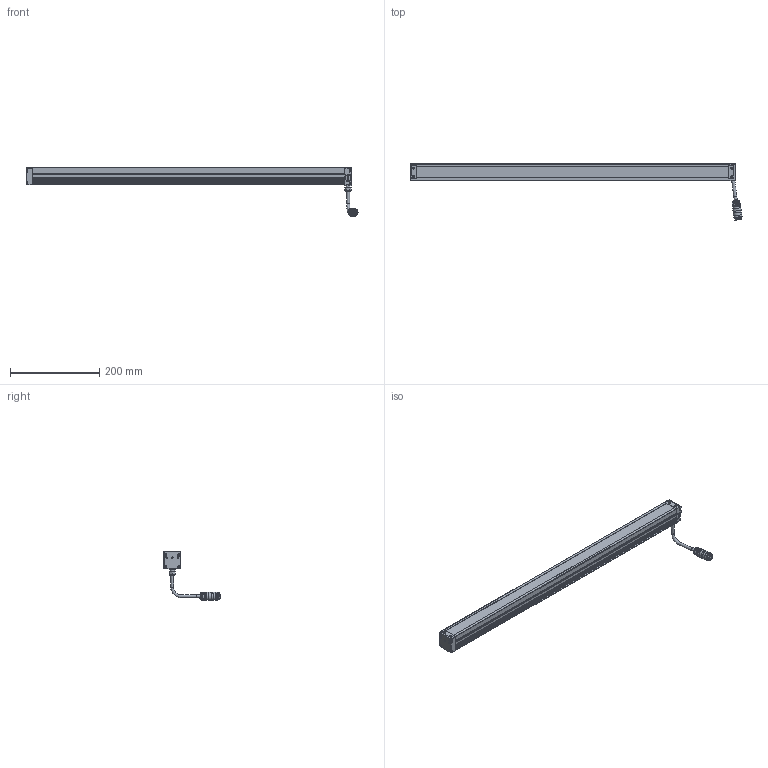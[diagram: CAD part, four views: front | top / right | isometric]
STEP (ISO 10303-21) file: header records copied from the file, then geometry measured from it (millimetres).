
FILE_DESCRIPTION(/* description */ (''),/* implementation_level */ '2;1');
FILE_NAME(/* name */ 'LBHP700',/* time_stamp */ '2025-01-14T08:06:55+01:00',/* author */ (''),/* organization */ ('iiM AG'),/* preprocessor_version */ 'ST-DEVELOPER v16.7',/* originating_system */ 'DEX',/* authorisation */ $);
FILE_SCHEMA (('AUTOMOTIVE_DESIGN {1 0 10303 214 3 1 1}'));
Length unit declared in the file: millimetre
Products named in the file (1): step export
Bounding box: 744.79 x 126.2 x 109.58 mm (x, y, z)
Volume: 940822 mm3; surface area: 211235.7 mm2
Topology: 2 solids, 2 shells, 882 faces, 2334 edges, 1476 vertices
Faces by surface type: cylinder 368, plane 336, cone 138, sphere 21, torus 16, bspline 3
Full cylindrical faces by diameter (mm): 1.001 x12, 2.693 x4, 3 x2, 3.1 x4, 3.242 x6, 3.8 x8, 5.6 x8, 6 x8, 6.8 x2, 8.008 x1, 10 x1, 11 x1, 12.9 x2, 14 x1, 15.015 x1, 16.016 x1, 17.518 x1, 18.519 x3, 18.619 x2
Entity records: 32582 total; most frequent: CARTESIAN_POINT 6224, ORIENTED_EDGE 4118, DIRECTION 4048, EDGE_CURVE 2059, AXIS2_PLACEMENT_3D 1523, VERTEX_POINT 1383, FACE_BOUND 1100, EDGE_LOOP 1086
